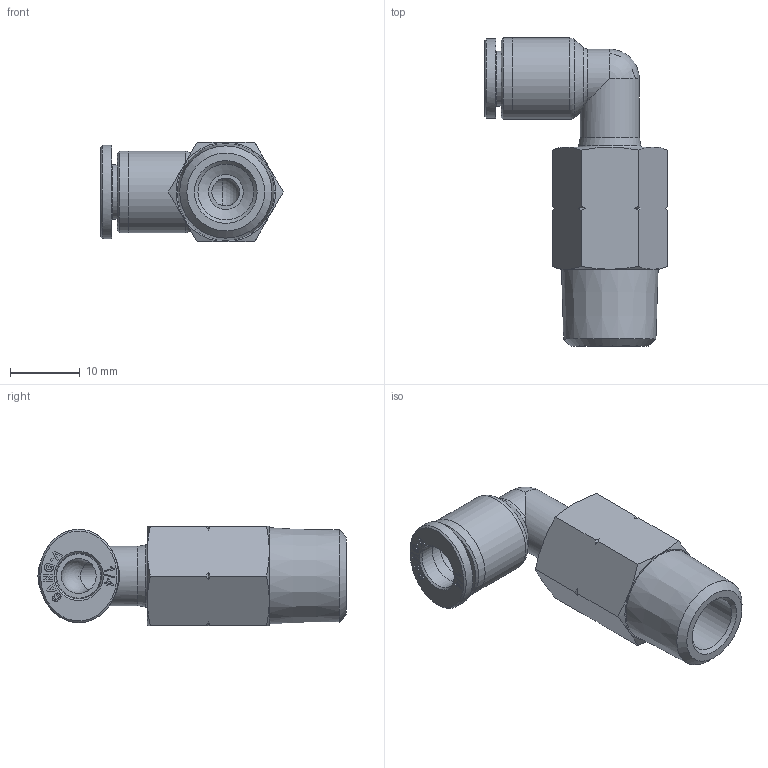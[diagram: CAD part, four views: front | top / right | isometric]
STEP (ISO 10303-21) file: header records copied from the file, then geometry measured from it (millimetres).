
FILE_DESCRIPTION((''),'2;1');
FILE_NAME('C:\Users\user0117\Desktop\김진일\홈페이지\1_4\Internet\GPLL 1_4-N02U.stp','2019-09-02T10:06:25',('user0117'),(''),'Autodesk Inventor 2013','Autodesk Inventor 2013','');
FILE_SCHEMA(('AUTOMOTIVE_DESIGN { 1 0 10303 214 1 1 1 1 }'));
Length unit declared in the file: millimetre
Products named in the file (6): GPLL 1_4-N02U; GPLL BODY 1-4 N02(BRASS); GPL BODY 1-4(PLASTIC); G-COLLAR G1-4L; COLLAR G1-4L; SLEEVE G1-4
Assembly tree (5 placements, depth 3):
  GPLL 1_4-N02U
    GPLL BODY 1-4 N02(BRASS)
    GPL BODY 1-4(PLASTIC)
    G-COLLAR G1-4L
      COLLAR G1-4L
      SLEEVE G1-4
Bounding box: 26.2 x 44.2 x 14.29 mm (x, y, z)
Volume: 4976.3 mm3; surface area: 4202.6 mm2
Topology: 4 solids, 4 shells, 189 faces, 476 edges, 309 vertices
Faces by surface type: plane 109, cone 34, bspline 22, cylinder 19, torus 3, sphere 2
Full cylindrical faces by diameter (mm): 4 x1, 5 x3, 6.55 x3, 7.85 x1, 8 x1, 8.5 x1, 11.7 x2
Entity records: 5951 total; most frequent: CARTESIAN_POINT 1542, ORIENTED_EDGE 878, DIRECTION 843, EDGE_CURVE 439, VERTEX_POINT 300, AXIS2_PLACEMENT_3D 287, VECTOR 269, LINE 269
